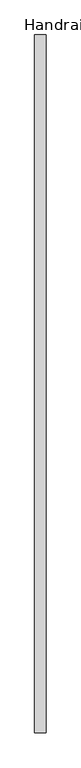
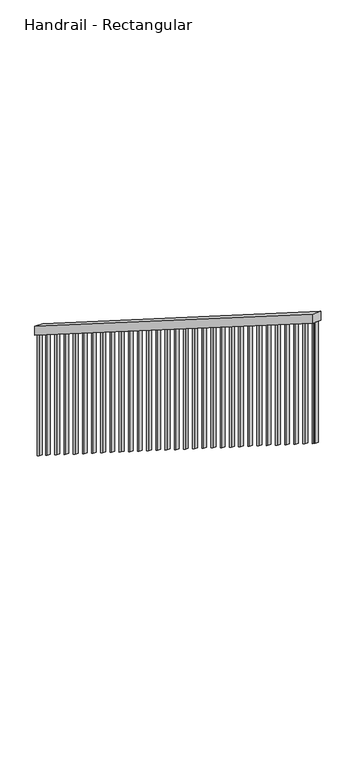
"""IFC4 building model written with IfcOpenShell, lengths in millimetres: railing geometry, Handrail - Rectangular."""

from ifc_helpers import new_model, si_unit, frame, origin, place, context, project, spatial, polyline, outline, extrude, source, transform, mapped, element, save


def handrail_rectangular_0b5e10db(model_context):
    return source(origin(), model_context, "Body", "SweptSolid", [
        extrude(outline(polyline([(29625.2325698, 737.4193548), (29625.2325698, 677.2854912), (26551.8305304, 2624.0725879), (26551.8305304, 2684.2064516), (29625.2325698, 737.4193548)])), frame((-8585.2851755, 0.0, 0.0), z_axis=(1.0, 0.0, 0.0), x_axis=(0.0, 1.0, 0.0)), (0.0, 0.0, 1.0), 50.8),
        extrude(outline(polyline([(26586.7575698, 2601.9487301), (26586.7575698, 1785.4263775), (26567.7075698, 1797.4932316), (26567.7075698, 2614.0155843), (26586.7575698, 2601.9487301)])), frame((-8569.4101755, 0.0, 0.0), z_axis=(1.0, 0.0, 0.0), x_axis=(0.0, 1.0, 0.0)), (0.0, 0.0, 1.0), 19.05),
        extrude(outline(polyline([(26688.3575698, 2537.5921746), (26688.3575698, 1721.0698219), (26669.3075698, 1733.1366761), (26669.3075698, 2549.6590287), (26688.3575698, 2537.5921746)])), frame((-8569.4101755, 0.0, 0.0), z_axis=(1.0, 0.0, 0.0), x_axis=(0.0, 1.0, 0.0)), (0.0, 0.0, 1.0), 19.05),
        extrude(outline(polyline([(26789.9575698, 2473.2356191), (26789.9575698, 1656.7132664), (26770.9075698, 1668.7801206), (26770.9075698, 2485.3024732), (26789.9575698, 2473.2356191)])), frame((-8569.4101755, 0.0, 0.0), z_axis=(1.0, 0.0, 0.0), x_axis=(0.0, 1.0, 0.0)), (0.0, 0.0, 1.0), 19.05),
        extrude(outline(polyline([(26891.5575698, 2408.8790635), (26891.5575698, 1592.3567109), (26872.5075698, 1604.423565), (26872.5075698, 2420.9459177), (26891.5575698, 2408.8790635)])), frame((-8569.4101755, 0.0, 0.0), z_axis=(1.0, 0.0, 0.0), x_axis=(0.0, 1.0, 0.0)), (0.0, 0.0, 1.0), 19.05),
        extrude(outline(polyline([(26993.1575698, 2344.522508), (26993.1575698, 1528.0001553), (26974.1075698, 1540.0670095), (26974.1075698, 2356.5893621), (26993.1575698, 2344.522508)])), frame((-8569.4101755, 0.0, 0.0), z_axis=(1.0, 0.0, 0.0), x_axis=(0.0, 1.0, 0.0)), (0.0, 0.0, 1.0), 19.05),
        extrude(outline(polyline([(27094.7575698, 2280.1659524), (27094.7575698, 1463.6435998), (27075.7075698, 1475.710454), (27075.7075698, 2292.2328066), (27094.7575698, 2280.1659524)])), frame((-8569.4101755, 0.0, 0.0), z_axis=(1.0, 0.0, 0.0), x_axis=(0.0, 1.0, 0.0)), (0.0, 0.0, 1.0), 19.05),
        extrude(outline(polyline([(27196.3575698, 2215.8093969), (27196.3575698, 1399.2870443), (27177.3075698, 1411.3538984), (27177.3075698, 2227.8762511), (27196.3575698, 2215.8093969)])), frame((-8569.4101755, 0.0, 0.0), z_axis=(1.0, 0.0, 0.0), x_axis=(0.0, 1.0, 0.0)), (0.0, 0.0, 1.0), 19.05),
        extrude(outline(polyline([(27297.9575698, 2151.4528414), (27297.9575698, 1334.9304887), (27278.9075698, 1346.9973429), (27278.9075698, 2163.5196955), (27297.9575698, 2151.4528414)])), frame((-8569.4101755, 0.0, 0.0), z_axis=(1.0, 0.0, 0.0), x_axis=(0.0, 1.0, 0.0)), (0.0, 0.0, 1.0), 19.05),
        extrude(outline(polyline([(27399.5575698, 2087.0962858), (27399.5575698, 1270.5739332), (27380.5075698, 1282.6407874), (27380.5075698, 2099.16314), (27399.5575698, 2087.0962858)])), frame((-8569.4101755, 0.0, 0.0), z_axis=(1.0, 0.0, 0.0), x_axis=(0.0, 1.0, 0.0)), (0.0, 0.0, 1.0), 19.05),
        extrude(outline(polyline([(27501.1575698, 2022.7397303), (27501.1575698, 1206.2173777), (27482.1075698, 1218.2842318), (27482.1075698, 2034.8065845), (27501.1575698, 2022.7397303)])), frame((-8569.4101755, 0.0, 0.0), z_axis=(1.0, 0.0, 0.0), x_axis=(0.0, 1.0, 0.0)), (0.0, 0.0, 1.0), 19.05),
        extrude(outline(polyline([(27602.7575698, 1958.3831748), (27602.7575698, 1141.8608221), (27583.7075698, 1153.9276763), (27583.7075698, 1970.4500289), (27602.7575698, 1958.3831748)])), frame((-8569.4101755, 0.0, 0.0), z_axis=(1.0, 0.0, 0.0), x_axis=(0.0, 1.0, 0.0)), (0.0, 0.0, 1.0), 19.05),
        extrude(outline(polyline([(27704.3575698, 1894.0266192), (27704.3575698, 1077.5042666), (27685.3075698, 1089.5711207), (27685.3075698, 1906.0934734), (27704.3575698, 1894.0266192)])), frame((-8569.4101755, 0.0, 0.0), z_axis=(1.0, 0.0, 0.0), x_axis=(0.0, 1.0, 0.0)), (0.0, 0.0, 1.0), 19.05),
        extrude(outline(polyline([(27805.9575698, 1829.6700637), (27805.9575698, 1013.1477111), (27786.9075698, 1025.2145652), (27786.9075698, 1841.7369179), (27805.9575698, 1829.6700637)])), frame((-8569.4101755, 0.0, 0.0), z_axis=(1.0, 0.0, 0.0), x_axis=(0.0, 1.0, 0.0)), (0.0, 0.0, 1.0), 19.05),
        extrude(outline(polyline([(27907.5575698, 1765.3135082), (27907.5575698, 948.7911555), (27888.5075698, 960.8580097), (27888.5075698, 1777.3803623), (27907.5575698, 1765.3135082)])), frame((-8569.4101755, 0.0, 0.0), z_axis=(1.0, 0.0, 0.0), x_axis=(0.0, 1.0, 0.0)), (0.0, 0.0, 1.0), 19.05),
        extrude(outline(polyline([(28009.1575698, 1700.9569526), (28009.1575698, 884.4346), (27990.1075698, 896.5014541), (27990.1075698, 1713.0238068), (28009.1575698, 1700.9569526)])), frame((-8569.4101755, 0.0, 0.0), z_axis=(1.0, 0.0, 0.0), x_axis=(0.0, 1.0, 0.0)), (0.0, 0.0, 1.0), 19.05),
        extrude(outline(polyline([(28110.7575698, 1636.6003971), (28110.7575698, 820.0780444), (28091.7075698, 832.1448986), (28091.7075698, 1648.6672513), (28110.7575698, 1636.6003971)])), frame((-8569.4101755, 0.0, 0.0), z_axis=(1.0, 0.0, 0.0), x_axis=(0.0, 1.0, 0.0)), (0.0, 0.0, 1.0), 19.05),
        extrude(outline(polyline([(28212.3575698, 1572.2438416), (28212.3575698, 755.7214889), (28193.3075698, 767.7883431), (28193.3075698, 1584.3106957), (28212.3575698, 1572.2438416)])), frame((-8569.4101755, 0.0, 0.0), z_axis=(1.0, 0.0, 0.0), x_axis=(0.0, 1.0, 0.0)), (0.0, 0.0, 1.0), 19.05),
        extrude(outline(polyline([(28313.9575698, 1507.887286), (28313.9575698, 691.3649334), (28294.9075698, 703.4317875), (28294.9075698, 1519.9541402), (28313.9575698, 1507.887286)])), frame((-8569.4101755, 0.0, 0.0), z_axis=(1.0, 0.0, 0.0), x_axis=(0.0, 1.0, 0.0)), (0.0, 0.0, 1.0), 19.05),
        extrude(outline(polyline([(28415.5575698, 1443.5307305), (28415.5575698, 627.0083778), (28396.5075698, 639.075232), (28396.5075698, 1455.5975847), (28415.5575698, 1443.5307305)])), frame((-8569.4101755, 0.0, 0.0), z_axis=(1.0, 0.0, 0.0), x_axis=(0.0, 1.0, 0.0)), (0.0, 0.0, 1.0), 19.05),
        extrude(outline(polyline([(28517.1575698, 1379.174175), (28517.1575698, 562.6518223), (28498.1075698, 574.7186765), (28498.1075698, 1391.2410291), (28517.1575698, 1379.174175)])), frame((-8569.4101755, 0.0, 0.0), z_axis=(1.0, 0.0, 0.0), x_axis=(0.0, 1.0, 0.0)), (0.0, 0.0, 1.0), 19.05),
        extrude(outline(polyline([(28618.7575698, 1314.8176194), (28618.7575698, 498.2952668), (28599.7075698, 510.3621209), (28599.7075698, 1326.8844736), (28618.7575698, 1314.8176194)])), frame((-8569.4101755, 0.0, 0.0), z_axis=(1.0, 0.0, 0.0), x_axis=(0.0, 1.0, 0.0)), (0.0, 0.0, 1.0), 19.05),
        extrude(outline(polyline([(28720.3575698, 1250.4610639), (28720.3575698, 433.9387112), (28701.3075698, 446.0055654), (28701.3075698, 1262.5279181), (28720.3575698, 1250.4610639)])), frame((-8569.4101755, 0.0, 0.0), z_axis=(1.0, 0.0, 0.0), x_axis=(0.0, 1.0, 0.0)), (0.0, 0.0, 1.0), 19.05),
        extrude(outline(polyline([(28821.9575698, 1186.1045084), (28821.9575698, 369.5821557), (28802.9075698, 381.6490099), (28802.9075698, 1198.1713625), (28821.9575698, 1186.1045084)])), frame((-8569.4101755, 0.0, 0.0), z_axis=(1.0, 0.0, 0.0), x_axis=(0.0, 1.0, 0.0)), (0.0, 0.0, 1.0), 19.05),
        extrude(outline(polyline([(28923.5575698, 1121.7479528), (28923.5575698, 305.2256002), (28904.5075698, 317.2924543), (28904.5075698, 1133.814807), (28923.5575698, 1121.7479528)])), frame((-8569.4101755, 0.0, 0.0), z_axis=(1.0, 0.0, 0.0), x_axis=(0.0, 1.0, 0.0)), (0.0, 0.0, 1.0), 19.05),
        extrude(outline(polyline([(29025.1575698, 1057.3913973), (29025.1575698, 240.8690446), (29006.1075698, 252.9358988), (29006.1075698, 1069.4582515), (29025.1575698, 1057.3913973)])), frame((-8569.4101755, 0.0, 0.0), z_axis=(1.0, 0.0, 0.0), x_axis=(0.0, 1.0, 0.0)), (0.0, 0.0, 1.0), 19.05),
        extrude(outline(polyline([(29126.7575698, 993.0348418), (29126.7575698, 176.5124891), (29107.7075698, 188.5793433), (29107.7075698, 1005.1016959), (29126.7575698, 993.0348418)])), frame((-8569.4101755, 0.0, 0.0), z_axis=(1.0, 0.0, 0.0), x_axis=(0.0, 1.0, 0.0)), (0.0, 0.0, 1.0), 19.05),
        extrude(outline(polyline([(29228.3575698, 928.6782862), (29228.3575698, 112.1559336), (29209.3075698, 124.2227877), (29209.3075698, 940.7451404), (29228.3575698, 928.6782862)])), frame((-8569.4101755, 0.0, 0.0), z_axis=(1.0, 0.0, 0.0), x_axis=(0.0, 1.0, 0.0)), (0.0, 0.0, 1.0), 19.05),
        extrude(outline(polyline([(29329.9575698, 864.3217307), (29329.9575698, 47.799378), (29310.9075698, 59.8662322), (29310.9075698, 876.3885849), (29329.9575698, 864.3217307)])), frame((-8569.4101755, 0.0, 0.0), z_axis=(1.0, 0.0, 0.0), x_axis=(0.0, 1.0, 0.0)), (0.0, 0.0, 1.0), 19.05),
        extrude(outline(polyline([(29431.5575698, 799.9651752), (29431.5575698, -16.5571775), (29412.5075698, -4.4903233), (29412.5075698, 812.0320293), (29431.5575698, 799.9651752)])), frame((-8569.4101755, 0.0, 0.0), z_axis=(1.0, 0.0, 0.0), x_axis=(0.0, 1.0, 0.0)), (0.0, 0.0, 1.0), 19.05),
        extrude(outline(polyline([(29533.1575698, 735.6086196), (29533.1575698, -80.913733), (29514.1075698, -68.8468789), (29514.1075698, 747.6754738), (29533.1575698, 735.6086196)])), frame((-8569.4101755, 0.0, 0.0), z_axis=(1.0, 0.0, 0.0), x_axis=(0.0, 1.0, 0.0)), (0.0, 0.0, 1.0), 19.05),
        extrude(outline(polyline([(26570.8805304, 2612.0057338), (26570.8805304, 1795.4833811), (26551.8305304, 1807.5502353), (26551.8305304, 2624.0725879), (26570.8805304, 2612.0057338)])), frame((-8569.4101755, 0.0, 0.0), z_axis=(1.0, 0.0, 0.0), x_axis=(0.0, 1.0, 0.0)), (0.0, 0.0, 1.0), 19.05),
        extrude(outline(polyline([(29625.2325698, 677.2854912), (29625.2325698, -139.2368615), (29606.1825698, -127.1700073), (29606.1825698, 689.3523453), (29625.2325698, 677.2854912)])), frame((-8569.4101755, 0.0, 0.0), z_axis=(1.0, 0.0, 0.0), x_axis=(0.0, 1.0, 0.0)), (0.0, 0.0, 1.0), 19.05),
    ])


if __name__ == "__main__":
    model = new_model("IFC4")
    model_context = context("Model", 3, world=origin())
    ifc_project = project(units=[si_unit("LENGTHUNIT", "METRE", prefix="MILLI")], contexts=[model_context])
    site = spatial("IfcSite", under=ifc_project)
    building = spatial("IfcBuilding", under=site)
    placement = place(None, origin())
    handrail_rectangular_shape = handrail_rectangular_0b5e10db(model_context)
    element("IfcRailing", 1, ObjectType="Handrail - Rectangular", at=placement, inside=building, context=model_context, shape_type="MappedRepresentation", body=[
        mapped(handrail_rectangular_shape, transform((0.0, 0.0, 0.0), x_axis=(1.0, 0.0, 0.0), y_axis=(0.0, 1.0, 0.0), z_axis=(0.0, 0.0, 1.0))),
    ])
    save(model, "model.ifc")
